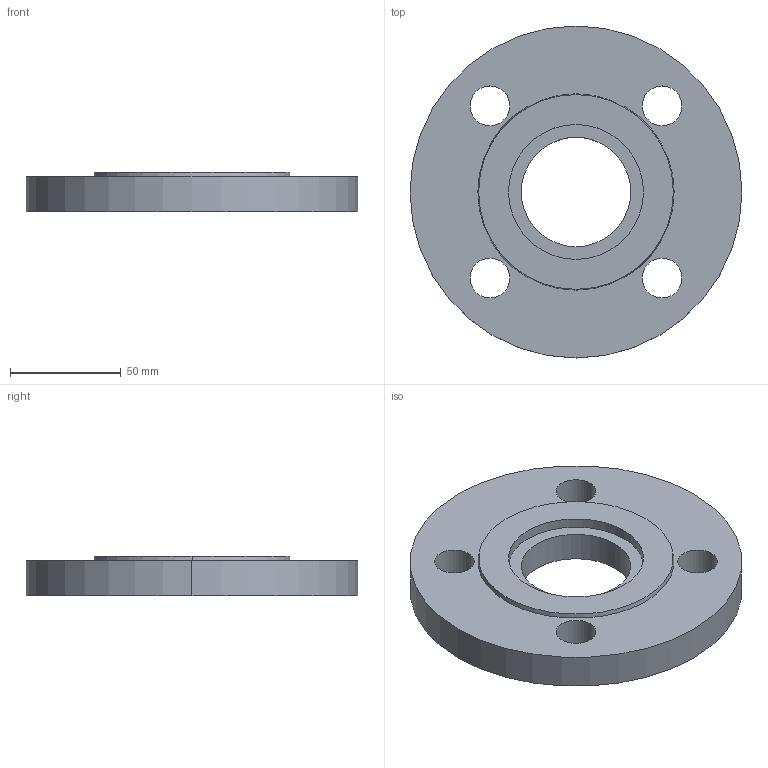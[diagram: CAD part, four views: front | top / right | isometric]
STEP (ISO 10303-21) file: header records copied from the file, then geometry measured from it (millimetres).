
FILE_DESCRIPTION (( 'STEP AP214' ), '1' );
FILE_NAME ('PN40 DN40 Type 01 - Type G Face.STEP', '2018-12-30T02:32:11', ( '' ), ( '' ), 'SwSTEP 2.0', 'SolidWorks 2019', '' );
FILE_SCHEMA (( 'AUTOMOTIVE_DESIGN' ));
Length unit declared in the file: millimetre
Products named in the file (1): PN40 DN40 Type 01 - Type G Face
Bounding box: 150 x 150 x 18 mm (x, y, z)
Volume: 239588.5 mm3; surface area: 44044.8 mm2
Topology: 1 solids, 1 shells, 20 faces, 48 edges, 32 vertices
Faces by surface type: cylinder 14, plane 4, cone 2
Entity records: 658 total; most frequent: DIRECTION 122, CARTESIAN_POINT 101, ORIENTED_EDGE 96, AXIS2_PLACEMENT_3D 53, EDGE_CURVE 48, CIRCLE 32, EDGE_LOOP 32, VERTEX_POINT 32
